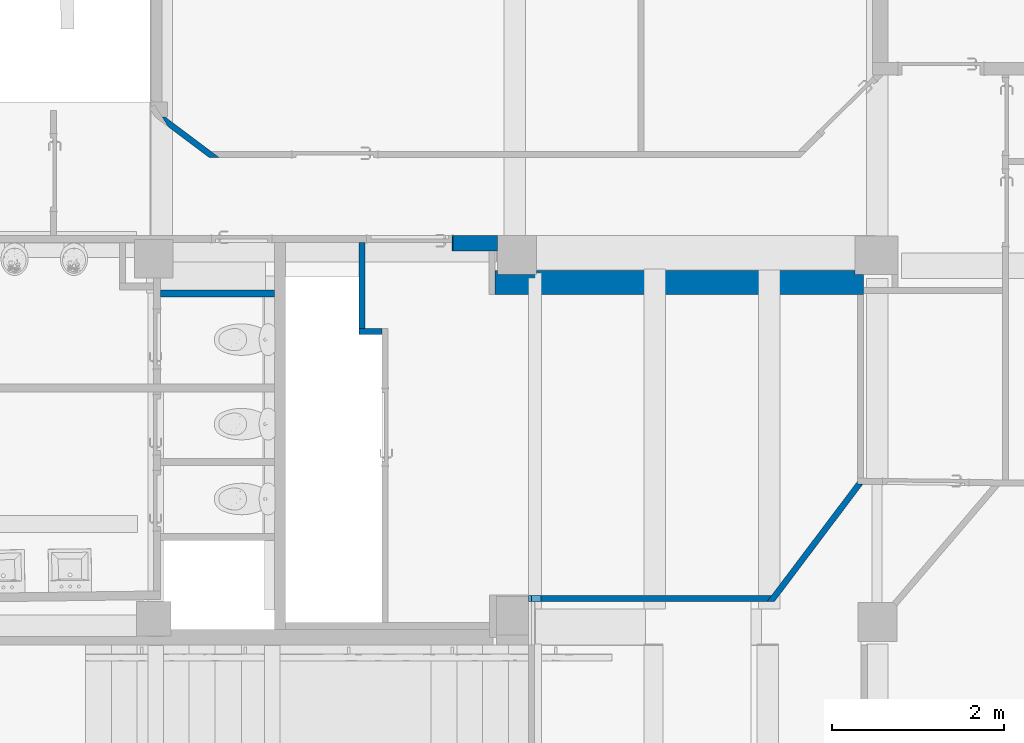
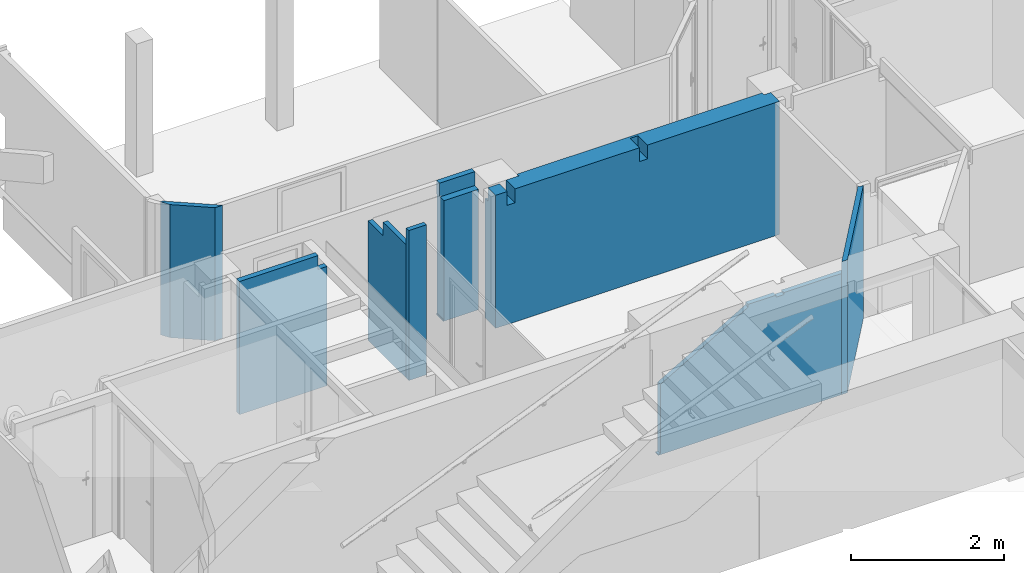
# One storey, part 21 of 32: 8 walls, 1 opening.
"""IFC4 building model written with IfcOpenShell, lengths in metres."""

from ifc_helpers import new_model, entity, si_unit, converted_unit, derived_unit, direction, frame, origin, place, context, subcontext, project, spatial, indexed_curve, outline, extrude, polygons, material, layer, layer_set, type_object, element, save


model = new_model("IFC4")

# Units and contexts
model_context = context("Model", 3, precision=1e-05, world=origin(), true_north=direction((6.12303176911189e-17, 1.0)))
body_context = subcontext(model_context, "Body", "Model", "MODEL_VIEW")
ifc_project = project(units=[si_unit("LENGTHUNIT", "METRE"), si_unit("AREAUNIT", "SQUARE_METRE"), si_unit("VOLUMEUNIT", "CUBIC_METRE"), converted_unit("PLANEANGLEUNIT", "DEGREE", entity("IfcRatioMeasure", 0.0174532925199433), si_unit("PLANEANGLEUNIT", "RADIAN"), dimensions=[0, 0, 0, 0, 0, 0, 0]), si_unit("MASSUNIT", "GRAM", prefix="KILO"), derived_unit("MASSDENSITYUNIT", [(si_unit("MASSUNIT", "GRAM", prefix="KILO"), 1), (si_unit("LENGTHUNIT", "METRE"), -3)]), derived_unit("MOMENTOFINERTIAUNIT", [(si_unit("LENGTHUNIT", "METRE"), 4)]), si_unit("TIMEUNIT", "SECOND"), si_unit("FREQUENCYUNIT", "HERTZ"), si_unit("THERMODYNAMICTEMPERATUREUNIT", "DEGREE_CELSIUS"), derived_unit("THERMALTRANSMITTANCEUNIT", [(si_unit("MASSUNIT", "GRAM", prefix="KILO"), 1), (si_unit("THERMODYNAMICTEMPERATUREUNIT", "KELVIN"), -1), (si_unit("TIMEUNIT", "SECOND"), -3)]), derived_unit("VOLUMETRICFLOWRATEUNIT", [(si_unit("LENGTHUNIT", "METRE"), 3), (si_unit("TIMEUNIT", "SECOND"), -1)]), si_unit("ELECTRICCURRENTUNIT", "AMPERE"), si_unit("ELECTRICVOLTAGEUNIT", "VOLT"), si_unit("POWERUNIT", "WATT"), si_unit("FORCEUNIT", "NEWTON", prefix="KILO"), si_unit("ILLUMINANCEUNIT", "LUX"), si_unit("LUMINOUSFLUXUNIT", "LUMEN"), si_unit("LUMINOUSINTENSITYUNIT", "CANDELA"), derived_unit("USERDEFINED", [(si_unit("MASSUNIT", "GRAM", prefix="KILO"), -1), (si_unit("LENGTHUNIT", "METRE"), -2), (si_unit("TIMEUNIT", "SECOND"), 3), (si_unit("LUMINOUSFLUXUNIT", "LUMEN"), 1)]), derived_unit("LINEARVELOCITYUNIT", [(si_unit("LENGTHUNIT", "METRE"), 1), (si_unit("TIMEUNIT", "SECOND"), -1)]), si_unit("PRESSUREUNIT", "PASCAL"), derived_unit("USERDEFINED", [(si_unit("LENGTHUNIT", "METRE"), -2), (si_unit("MASSUNIT", "GRAM", prefix="KILO"), 1), (si_unit("TIMEUNIT", "SECOND"), -2)]), derived_unit("LINEARFORCEUNIT", [(si_unit("MASSUNIT", "GRAM", prefix="KILO"), 1), (si_unit("LENGTHUNIT", "METRE"), 1), (si_unit("TIMEUNIT", "SECOND"), -2), (si_unit("LENGTHUNIT", "METRE"), -1)]), derived_unit("PLANARFORCEUNIT", [(si_unit("MASSUNIT", "GRAM", prefix="KILO"), 1), (si_unit("LENGTHUNIT", "METRE"), 1), (si_unit("TIMEUNIT", "SECOND"), -2), (si_unit("LENGTHUNIT", "METRE"), -2)])], contexts=[model_context])

# Site, building, storey
site_placement = place(None, origin())
site = spatial("IfcSite", under=ifc_project, at=site_placement, Name="Default", CompositionType="ELEMENT")
building_placement = place(site_placement, origin())
building = spatial("IfcBuilding", under=site, at=building_placement, Name="HOTEL CONSULAIRE BOULOGNE SUR MER", CompositionType="ELEMENT")
storey_placement = place(building_placement, frame((0.0, 0.0, -2.70343668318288)))
storey = spatial("IfcBuildingStorey", under=building, at=storey_placement, Name="SS1", CompositionType="ELEMENT", Elevation=-2.70343668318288)

# Walls
ifc_material = material(Name="Mur par défaut", Category="Divers")
ifc_layer_1 = layer(ifc_material, 0.07, Name="Mur par défaut", Category="Divers")
ifc_layer_set_1 = layer_set([ifc_layer_1], Name="Mur de base:Générique - Int. 70 mm")
wall_type_1 = type_object("IfcWallType", Name="Mur de base:Générique - Int. 70 mm", PredefinedType="NOTDEFINED", material=ifc_layer_set_1)
wall_1_placement = place(storey_placement, frame((-1.11742903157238, -13.9982860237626, 0.313990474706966), z_axis=(0.0, 0.0, 1.0), x_axis=(0.799943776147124, -0.600074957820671, 0.0)))
element("IfcWall", 1, at=wall_1_placement, inside=storey, type_object=wall_type_1, material=ifc_layer_set_1, Name="Mur de base:Générique - Int. 70 mm", ObjectType="Mur de base:Générique - Int. 70 mm", PredefinedType="NOTDEFINED", context=body_context, shape_type="Tessellation", body=[
    polygons([(0.692477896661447, -0.0349999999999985, 2.11944620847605), (0.100913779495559, -0.0349999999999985, 2.11944620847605), (0.10091377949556, -0.0349999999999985, 0.0), (0.692477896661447, -0.0349999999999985, 0.0), (0.0, 0.0350000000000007, 2.11944620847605), (0.669140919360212, 0.0350000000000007, 2.11944620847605), (0.78579301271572, 0.0350000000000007, 2.11944620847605), (0.78579301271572, 0.0350000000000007, 0.0), (0.669140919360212, 0.0350000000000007, 0.0), (0.0, 0.0350000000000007, 0.0), (-0.0272857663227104, 0.0145316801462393, 2.11944620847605), (-0.0272857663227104, 0.0145316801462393, 0.0)], [[[2, 3, 4, 1]], [[6, 7, 8, 9, 10, 5]], [[2, 1, 7, 6, 5, 11]], [[1, 4, 8, 7]], [[12, 3, 2, 11]], [[10, 12, 11, 5]], [[4, 3, 12, 10, 9, 8]]], closed=True),
])
wall_2_placement = place(storey_placement, frame((6.96826829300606, -18.2092506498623, 0.313990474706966), z_axis=(0.0, 0.0, 1.0), x_axis=(-0.601815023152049, -0.798635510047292, 0.0)))
element("IfcWall", 2, at=wall_2_placement, inside=storey, type_object=wall_type_1, material=ifc_layer_set_1, Name="Mur de base:Générique - Int. 70 mm", ObjectType="Mur de base:Générique - Int. 70 mm", PredefinedType="NOTDEFINED", context=body_context, shape_type="Tessellation", body=[
    polygons([(1.75691780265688, -0.0350000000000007, 2.11944620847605), (0.0128147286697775, -0.0350000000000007, 2.11944620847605), (0.0128147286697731, -0.0350000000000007, 0.0), (1.75691780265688, -0.0350000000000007, 0.0), (1.75691780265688, -0.0350000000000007, 1.9309799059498), (0.0, 0.0350000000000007, 2.11944620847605), (1.70416901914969, 0.0350000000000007, 2.11944620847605), (1.70416901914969, 0.0350000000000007, 0.0), (0.0, 0.0350000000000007, 0.0), (0.0376878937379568, -0.0162567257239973, 2.11944620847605), (0.0376878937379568, -0.0162567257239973, 0.0)], [[[2, 3, 4, 5, 1]], [[7, 8, 9, 6]], [[2, 1, 7, 6, 10]], [[10, 11, 3, 2]], [[6, 9, 11, 10]], [[5, 4, 8, 7, 1]], [[11, 9, 8, 4, 3]]], closed=True),
])
wall_3_placement = place(storey_placement, frame((5.93572530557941, -19.5563240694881, 0.313990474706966), z_axis=(0.0, 0.0, 1.0), x_axis=(-1.0, 0.0, 0.0)))
element("IfcWall", 3, at=wall_3_placement, inside=storey, type_object=wall_type_1, material=ifc_layer_set_1, Name="Mur de base:Générique - Int. 70 mm", ObjectType="Mur de base:Générique - Int. 70 mm", PredefinedType="NOTDEFINED", context=body_context, shape_type="Tessellation", body=[
    polygons([(0.0527487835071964, 0.0350000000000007, 1.9309799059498), (-2.5291113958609e-16, -0.0350000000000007, 1.9309799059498), (0.920976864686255, -0.0350000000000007, 1.9309799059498), (0.920976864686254, 0.0350000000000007, 1.9309799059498), (2.78288423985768, -0.0350000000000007, 1.11924642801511), (1.46184694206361, -0.0350000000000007, 1.88696699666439), (1.46184694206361, -0.0350000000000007, 1.9309799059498), (1.04097686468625, -0.0350000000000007, 1.9309799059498), (1.04097686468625, -0.0350000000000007, 1.89944620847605), (0.920976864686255, -0.0350000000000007, 1.89944620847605), (-2.5291113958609e-16, -0.0350000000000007, 0.0), (2.81788423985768, -0.0350000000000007, 0.0), (2.81788423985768, -0.0350000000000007, 0.0181768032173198), (2.78288423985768, -0.0350000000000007, 0.0181768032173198), (1.46184694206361, 0.0350000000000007, 1.88696699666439), (2.78288423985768, 0.0350000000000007, 1.11924642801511), (2.78288423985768, 0.0350000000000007, 0.0181768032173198), (2.81788423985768, 0.0350000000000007, 0.0181768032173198), (2.81788423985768, 0.0350000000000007, 0.0), (0.0527487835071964, 0.0350000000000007, 0.0), (0.920976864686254, 0.0350000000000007, 1.89944620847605), (1.04097686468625, 0.0350000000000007, 1.89944620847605), (1.04097686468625, 0.0350000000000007, 1.9309799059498), (1.46184694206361, 0.0350000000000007, 1.9309799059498), (2.78288423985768, -0.0268024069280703, 1.11924642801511), (2.78288423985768, -0.0268024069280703, 0.0181768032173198)], [[[2, 3, 4, 1]], [[8, 7, 24, 23]], [[13, 18, 17, 26, 14]], [[22, 21, 10, 9]], [[11, 12, 13, 14, 5, 6, 7, 8, 9, 10, 3, 2]], [[19, 20, 1, 4, 21, 22, 23, 24, 15, 16, 17, 18]], [[6, 5, 25, 16, 15]], [[7, 6, 15, 24]], [[25, 5, 14, 26, 17, 16]], [[13, 12, 19, 18]], [[4, 3, 10, 21]], [[20, 11, 2, 1]], [[22, 9, 8, 23]], [[12, 11, 20, 19]]], closed=True),
])
wall_4_placement = place(storey_placement, frame((1.41777280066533, -16.456909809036, 0.313990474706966), z_axis=(0.0, 0.0, 1.0), x_axis=(-1.0, 0.0, 0.0)))
element("IfcWall", 4, at=wall_4_placement, inside=storey, type_object=wall_type_1, material=ifc_layer_set_1, Name="Mur de base:Générique - Int. 70 mm", ObjectType="Mur de base:Générique - Int. 70 mm", PredefinedType="NOTDEFINED", context=body_context, shape_type="Tessellation", body=[
    polygons([(0.266, -0.0349999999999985, 2.389446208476), (0.0, -0.0349999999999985, 2.389446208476), (0.0, -0.0349999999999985, 2.11944620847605), (0.0, -0.0349999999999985, 0.0), (0.196, -0.0349999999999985, 0.0), (0.266, -0.0349999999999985, 0.0), (0.266, -0.0349999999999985, 2.11944620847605), (0.0, 0.0350000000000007, 2.389446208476), (0.266, 0.0350000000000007, 2.389446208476), (0.266, 0.0350000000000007, 0.0), (0.0, 0.0350000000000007, 0.0)], [[[3, 4, 5, 6, 7, 1, 2]], [[9, 10, 11, 8]], [[2, 1, 9, 8]], [[8, 11, 4, 3, 2]], [[7, 6, 10, 9, 1]], [[5, 4, 11, 10, 6]]], closed=True),
])
wall_5_placement = place(storey_placement, frame((1.18677280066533, -16.421909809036, 0.313990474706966), z_axis=(0.0, 0.0, 1.0), x_axis=(0.0, 1.0, 0.0)))
element("IfcWall", 5, at=wall_5_placement, inside=storey, type_object=wall_type_1, material=ifc_layer_set_1, Name="Mur de base:Générique - Int. 70 mm", ObjectType="Mur de base:Générique - Int. 70 mm", PredefinedType="NOTDEFINED", context=body_context, shape_type="Tessellation", body=[
    polygons([(0.596215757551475, -0.035, 1.89944620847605), (0.596215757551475, -0.035, 2.11944620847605), (0.0, -0.035, 2.11944620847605), (0.0, -0.035, 0.0), (0.996215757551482, -0.035, 0.0), (0.996215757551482, -0.035, 1.89944620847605), (0.596215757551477, 0.035, 2.11944620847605), (0.596215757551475, 0.035, 1.89944620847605), (0.996215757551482, 0.035, 1.89944620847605), (0.996215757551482, 0.035, 0.0), (0.596215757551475, 0.035, 0.0), (0.0, 0.035, 0.0), (0.0, 0.035, 2.11944620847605)], [[[3, 4, 5, 6, 1, 2]], [[8, 9, 10, 11, 12, 13, 7]], [[3, 2, 7, 13]], [[8, 1, 6, 9]], [[13, 12, 4, 3]], [[6, 5, 10, 9]], [[7, 2, 1, 8]], [[11, 10, 5, 4, 12]]], closed=True),
])

# Wall, opening
ifc_layer_2 = layer(ifc_material, 0.18, Name="Mur par défaut", Category="Divers")
ifc_layer_set_2 = layer_set([ifc_layer_2], Name="Mur de base:Générique - Int.180")
wall_type_2 = type_object("IfcWallType", Name="Mur de base:Générique - Int.180", PredefinedType="NOTDEFINED", material=ifc_layer_set_2)
wall_6_placement = place(storey_placement, frame((2.76132268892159, -15.4356940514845, 0.293990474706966), z_axis=(0.0, 0.0, 1.0), x_axis=(-1.0, 0.0, 0.0)))
wall_6 = element("IfcWall", 6, at=wall_6_placement, inside=storey, type_object=wall_type_2, material=ifc_layer_set_2, Name="Mur de base:Générique - Int.180", ObjectType="Mur de base:Générique - Int.180", PredefinedType="NOTDEFINED", context=body_context, shape_type="Tessellation", body=[
    polygons([(0.531311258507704, -0.0900000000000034, 0.0), (0.531311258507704, -0.0100000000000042, 0.0), (0.531311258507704, 0.0899999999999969, 0.0), (0.531311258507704, 0.0899999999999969, 0.0200095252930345), (0.531311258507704, -0.0100000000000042, 0.0200095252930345), (0.531311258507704, -0.0900000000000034, 0.0200095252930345), (1.88318445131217e-16, -0.0900000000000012, 0.0), (0.519311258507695, -0.0900000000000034, 0.0200095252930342), (0.519311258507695, -0.0900000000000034, 1.92500952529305), (0.531311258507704, -0.0900000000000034, 1.92500952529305), (0.531311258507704, -0.0900000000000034, 2.13944620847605), (1.88318445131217e-16, -0.0900000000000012, 2.13944620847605), (0.102718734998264, 0.089999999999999, 0.0), (0.0327187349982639, 0.089999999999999, 0.0), (1.15929481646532e-16, 0.089999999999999, 0.0), (1.15929481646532e-16, 0.089999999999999, 1.91944620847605), (0.0327187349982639, 0.089999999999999, 1.91944620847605), (0.102718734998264, 0.089999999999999, 1.91944620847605), (0.519311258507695, 0.0899999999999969, 1.91944620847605), (0.519311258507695, 0.0899999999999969, 0.0200095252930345), (0.531311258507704, -0.00999999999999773, 1.92500952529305), (0.531311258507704, -0.00999999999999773, 2.13944620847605), (4.56941997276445e-16, -0.00999999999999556, 2.13944620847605), (-8.44915673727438e-17, -0.00999999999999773, 1.91944620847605), (0.519311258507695, -0.00999999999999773, 1.92500952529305), (0.519311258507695, -0.00999999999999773, 1.91944620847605)], [[[6, 1, 2, 3, 4, 5]], [[11, 10, 21, 22]], [[9, 8, 20, 19, 26, 25]], [[7, 1, 6, 8, 9, 10, 11, 12]], [[3, 13, 14, 15, 16, 17, 18, 19, 20, 4]], [[25, 26, 24, 23, 22, 21]], [[2, 1, 7, 15, 14, 13, 3]], [[25, 21, 10, 9]], [[12, 11, 22, 23]], [[5, 4, 20, 8, 6]], [[17, 16, 24, 26, 19, 18]], [[24, 16, 15, 7, 12, 23]]], closed=True),
])
opening_placement = place(wall_6_placement, frame((1.51931125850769, 1.514, 0.0200095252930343)))
element("IfcOpeningElement", 7, at=opening_placement, cuts=wall_6, Name="Mur de base:Générique - Int.180", ObjectType="Opening", PredefinedType="OPENING", context=body_context, shape_type="SweptSolid", body=[
    extrude(outline(indexed_curve([(-0.499999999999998, -0.952500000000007), (0.499999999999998, -0.952500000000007), (0.499999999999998, 0.952500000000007), (-0.499999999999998, 0.952500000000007), (-0.499999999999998, -0.952500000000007)], self_intersect=False)), frame((-0.499999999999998, -3.048, 0.952500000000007), z_axis=(0.0, 1.0, 0.0), x_axis=(-1.0, 0.0, 0.0)), (0.0, 0.0, 1.0), 3.048),
])

# Walls
ifc_layer_3 = layer(ifc_material, 0.08, Name="Mur par défaut", Category="Divers")
ifc_layer_set_3 = layer_set([ifc_layer_3], Name="Mur de base:Générique - Int. 80")
wall_type_3 = type_object("IfcWallType", Name="Mur de base:Générique - Int. 80", PredefinedType="NOTDEFINED", material=ifc_layer_set_3)
wall_7_placement = place(storey_placement, frame((-1.14882322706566, -16.0182334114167, 0.313990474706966)))
element("IfcWall", 8, at=wall_7_placement, inside=storey, type_object=wall_type_3, material=ifc_layer_set_3, Name="Mur de base:Générique - Int. 80", ObjectType="Mur de base:Générique - Int. 80", PredefinedType="NOTDEFINED", context=body_context, shape_type="Tessellation", body=[
    polygons([(1.1863633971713, -0.0399999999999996, 2.11944620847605), (6.03895538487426e-16, -0.0399999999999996, 2.11944620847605), (3.33178756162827e-16, -0.0399999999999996, 0.0), (1.32109141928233, -0.0399999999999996, 0.0), (1.32109141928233, -0.0399999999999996, 1.89944620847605), (1.1863633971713, -0.0399999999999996, 1.89944620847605), (2.07257301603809e-16, 0.0399999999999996, 2.11944620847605), (1.1863633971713, 0.0399999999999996, 2.11944620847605), (1.1863633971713, 0.0399999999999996, 1.89944620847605), (1.32109141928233, 0.0399999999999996, 1.89944620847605), (1.32109141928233, 0.0399999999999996, 0.0), (7.18989104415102e-17, 0.0399999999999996, 0.0)], [[[2, 3, 4, 5, 6, 1]], [[9, 10, 11, 12, 7, 8]], [[2, 1, 8, 7]], [[10, 9, 6, 5]], [[12, 3, 2, 7]], [[5, 4, 11, 10]], [[8, 1, 6, 9]], [[11, 4, 3, 12]]], closed=True),
])
ifc_layer_4 = layer(ifc_material, 0.28, Name="Mur par défaut", Category="Divers")
ifc_layer_set_4 = layer_set([ifc_layer_4], Name="Mur de base:Générique - Int. 280mm")
wall_type_4 = type_object("IfcWallType", Name="Mur de base:Générique - Int. 280mm", PredefinedType="NOTDEFINED", material=ifc_layer_set_4)
wall_8_placement = place(storey_placement, frame((7.00260395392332, -15.8890975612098, 0.313990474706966), z_axis=(0.0, 0.0, 1.0), x_axis=(-1.0, 0.0, 0.0)))
element("IfcWall", 9, at=wall_8_placement, inside=storey, type_object=wall_type_4, material=ifc_layer_set_4, Name="Mur de base:Générique - Int. 280mm", ObjectType="Mur de base:Générique - Int. 280mm", PredefinedType="NOTDEFINED", context=body_context, shape_type="Tessellation", body=[
    polygons([(4.274, -0.139999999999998, 1.89944620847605), (4.24128126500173, -0.139999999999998, 1.89944620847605), (4.24128126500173, -0.139999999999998, 0.0), (4.274, -0.139999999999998, 0.0), (4.274, -0.063403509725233, 2.11944620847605), (4.274, 0.140000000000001, 2.11944620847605), (4.10076288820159, 0.140000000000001, 2.11944620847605), (4.10076288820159, -0.063403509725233, 2.11944620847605), (3.79128126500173, -0.139999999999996, 2.11944620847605), (0.0990289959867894, -0.139999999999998, 2.11944620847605), (0.0990289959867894, -0.139999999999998, 0.0), (3.79128126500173, -0.139999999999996, 0.0), (-9.06275531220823e-16, 0.140000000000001, 2.11944620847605), (0.0699999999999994, 0.140000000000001, 2.11944620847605), (1.98785551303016, 0.140000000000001, 2.11944620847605), (1.98785551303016, 0.140000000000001, 1.89944620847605), (2.10785551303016, 0.140000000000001, 1.89944620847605), (2.10785551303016, 0.140000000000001, 2.11944620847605), (3.98076288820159, 0.140000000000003, 2.11944620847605), (3.98076288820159, 0.140000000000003, 1.89944620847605), (4.10076288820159, 0.140000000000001, 1.89944620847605), (4.274, 0.140000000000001, 0.0), (0.0699999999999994, 0.140000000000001, 0.0), (-9.06275531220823e-16, 0.140000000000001, 0.0), (3.79128126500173, -0.093403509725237, 2.11944620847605), (3.98076288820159, -0.093403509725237, 2.11944620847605), (3.98076288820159, -0.063403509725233, 2.11944620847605), (2.10785551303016, -0.106064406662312, 2.11944620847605), (1.98785551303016, -0.106064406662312, 2.11944620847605), (-8.7594462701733e-16, 0.129986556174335, 2.11944620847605), (-6.63913348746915e-16, 0.059986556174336, 2.11944620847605), (-2.09601331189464e-16, -0.0899999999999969, 2.11944620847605), (0.0990289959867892, -0.089999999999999, 2.11944620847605), (-8.7594462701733e-16, 0.129986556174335, 0.0), (-6.63913348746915e-16, 0.059986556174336, 0.0), (-2.09601331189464e-16, -0.0899999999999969, 0.0), (4.274, -0.0634035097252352, 1.89944620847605), (3.79128126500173, -0.093403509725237, 0.0), (4.24128126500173, -0.093403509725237, 1.89944620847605), (3.98076288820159, -0.093403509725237, 1.89944620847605), (4.24128126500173, -0.093403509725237, 0.0), (1.98785551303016, -0.106064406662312, 1.89944620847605), (2.10785551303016, -0.106064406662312, 1.89944620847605), (4.10076288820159, -0.063403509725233, 1.89944620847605), (3.98076288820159, -0.063403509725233, 1.89944620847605), (0.0990289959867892, -0.0899999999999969, 0.0)], [[[2, 3, 4, 1]], [[10, 11, 12, 9]], [[26, 25, 38, 41, 39, 40]], [[37, 5, 8, 44]], [[46, 33, 32, 36]], [[8, 5, 6, 7]], [[9, 25, 26, 27, 19, 18, 28, 29, 15, 14, 13, 30, 31, 32, 33, 10]], [[17, 16, 42, 43]], [[44, 21, 20, 45, 40, 39, 2, 1, 37]], [[22, 23, 24, 13, 14, 15, 16, 17, 18, 19, 20, 21, 7, 6]], [[42, 29, 28, 43]], [[24, 34, 35, 36, 32, 31, 30, 13]], [[3, 2, 39, 41]], [[18, 17, 43, 28]], [[7, 21, 44, 8]], [[11, 10, 33, 46]], [[37, 1, 4, 22, 6, 5]], [[12, 38, 25, 9]], [[16, 15, 29, 42]], [[20, 19, 27, 26, 40, 45]], [[23, 22, 4, 3, 41, 38, 12, 11, 46, 36, 35, 34, 24]]], closed=True),
])

save(model, "model.ifc")
